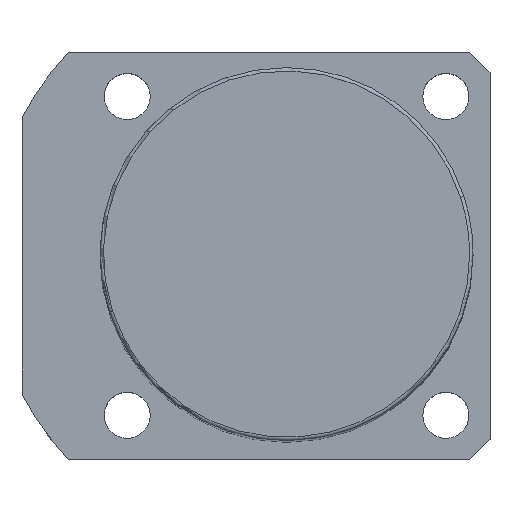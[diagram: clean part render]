
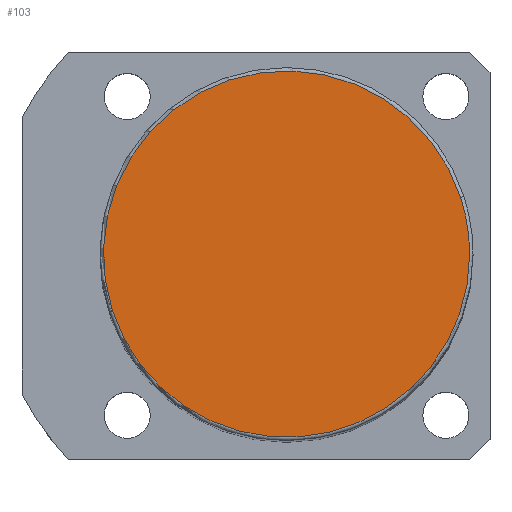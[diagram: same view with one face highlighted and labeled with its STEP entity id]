
A CAD part, top view. The second image highlights one B-rep face of the part: STEP entity #103.
In plain terms, the highlighted planar face has unit normal (0, 0, 1).
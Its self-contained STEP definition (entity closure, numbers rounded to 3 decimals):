
#16=CARTESIAN_POINT('',(-25.679,-8.343,161.0));
#17=VERTEX_POINT('',#16);
#54=CARTESIAN_POINT('',(25.679,8.343,161.0));
#55=VERTEX_POINT('',#54);
#63=CARTESIAN_POINT('',(27.0,0.0,161.0));
#64=VERTEX_POINT('',#63);
#65=CARTESIAN_POINT('',(0.0,0.0,161.0));
#66=DIRECTION('',(0.0,0.0,1.0));
#67=DIRECTION('',(1.0,0.0,0.0));
#68=AXIS2_PLACEMENT_3D('',#65,#66,#67);
#69=CIRCLE('',#68,27.0);
#70=EDGE_CURVE('no 898',#64,#55,#69,.T.);
#72=CARTESIAN_POINT('',(0.0,0.0,161.0));
#73=DIRECTION('',(0.0,0.0,1.0));
#74=DIRECTION('',(1.0,0.0,0.0));
#75=AXIS2_PLACEMENT_3D('',#72,#73,#74);
#76=CIRCLE('',#75,27.0);
#77=EDGE_CURVE('no 902',#17,#64,#76,.T.);
#87=ORIENTED_EDGE('',*,*,#70,.T.);
#88=CARTESIAN_POINT('',(0.0,0.0,161.0));
#89=DIRECTION('',(0.0,0.0,1.0));
#90=DIRECTION('',(1.0,0.0,0.0));
#91=AXIS2_PLACEMENT_3D('',#88,#89,#90);
#92=CIRCLE('',#91,27.0);
#93=EDGE_CURVE('no 911',#55,#17,#92,.T.);
#94=ORIENTED_EDGE('',*,*,#93,.T.);
#95=ORIENTED_EDGE('',*,*,#77,.T.);
#96=EDGE_LOOP('',(#87,#94,#95));
#97=FACE_OUTER_BOUND('',#96,.T.);
#98=CARTESIAN_POINT('',(0.0,0.0,161.0));
#99=DIRECTION('',(0.0,0.0,1.0));
#100=DIRECTION('',(1.0,0.0,0.0));
#101=AXIS2_PLACEMENT_3D('',#98,#99,#100);
#102=PLANE('',#101);
#103=ADVANCED_FACE('no 904',(#97),#102,.T.);
